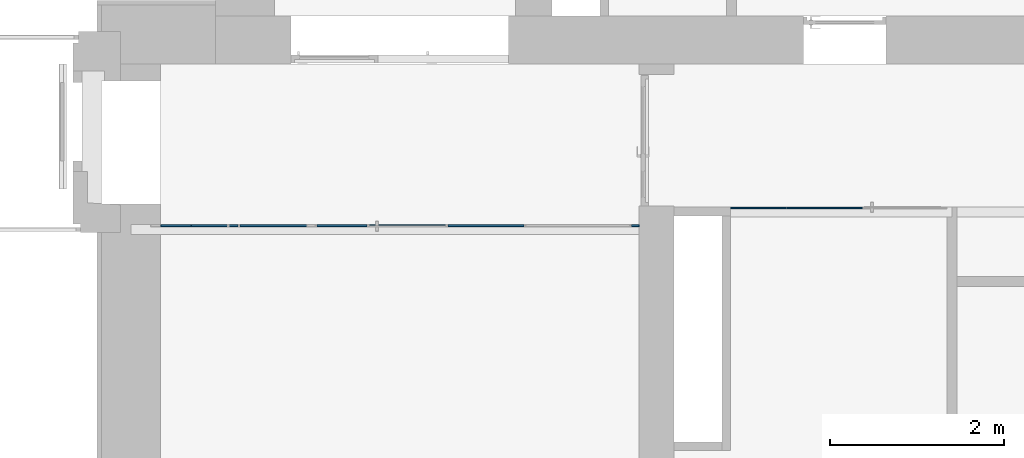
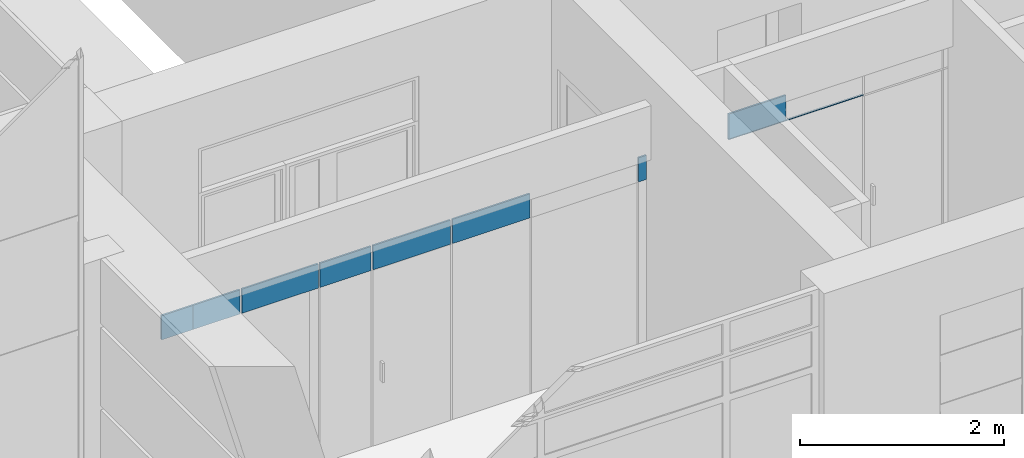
# One storey, part 29 of 66: 10 plates, 2 elements without a shape of their own.
"""IFC2X3 building model written with IfcOpenShell, lengths in millimetres."""

from ifc_helpers import new_model, entity, si_unit, converted_unit, derived_unit, direction, frame, origin, origin_2d_with_axis, place, context, subcontext, project, spatial, rectangle, extrude, source, transform, mapped, material, layer, layer_set, layer_usage, type_object, type_shapes, element, aggregate, save


model = new_model("IFC2X3")

# Units and contexts
model_context = context("Model", 3, precision=0.01, world=origin(), true_north=direction((6.12303176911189e-17, 1.0)))
body_context = subcontext(model_context, "Body", "Model", "MODEL_VIEW")
ifc_project = project(units=[si_unit("LENGTHUNIT", "METRE", prefix="MILLI"), si_unit("AREAUNIT", "SQUARE_METRE"), si_unit("VOLUMEUNIT", "CUBIC_METRE"), converted_unit("PLANEANGLEUNIT", "DEGREE", entity("IfcRatioMeasure", 0.0174532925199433), si_unit("PLANEANGLEUNIT", "RADIAN"), dimensions=[0, 0, 0, 0, 0, 0, 0]), si_unit("MASSUNIT", "GRAM", prefix="KILO"), derived_unit("MASSDENSITYUNIT", [(si_unit("MASSUNIT", "GRAM", prefix="KILO"), 1), (si_unit("LENGTHUNIT", "METRE"), -3)]), si_unit("TIMEUNIT", "SECOND"), si_unit("FREQUENCYUNIT", "HERTZ"), si_unit("THERMODYNAMICTEMPERATUREUNIT", "DEGREE_CELSIUS"), derived_unit("THERMALTRANSMITTANCEUNIT", [(si_unit("MASSUNIT", "GRAM", prefix="KILO"), 1), (si_unit("THERMODYNAMICTEMPERATUREUNIT", "KELVIN"), -1), (si_unit("TIMEUNIT", "SECOND"), -3)]), derived_unit("VOLUMETRICFLOWRATEUNIT", [(si_unit("LENGTHUNIT", "METRE"), 3), (si_unit("TIMEUNIT", "SECOND"), -1)]), si_unit("ELECTRICCURRENTUNIT", "AMPERE"), si_unit("ELECTRICVOLTAGEUNIT", "VOLT"), si_unit("POWERUNIT", "WATT"), si_unit("FORCEUNIT", "NEWTON", prefix="KILO"), si_unit("ILLUMINANCEUNIT", "LUX"), si_unit("LUMINOUSFLUXUNIT", "LUMEN"), si_unit("LUMINOUSINTENSITYUNIT", "CANDELA"), derived_unit("USERDEFINED", [(si_unit("MASSUNIT", "GRAM", prefix="KILO"), -1), (si_unit("LENGTHUNIT", "METRE"), -2), (si_unit("TIMEUNIT", "SECOND"), 3), (si_unit("LUMINOUSFLUXUNIT", "LUMEN"), 1)]), derived_unit("LINEARVELOCITYUNIT", [(si_unit("LENGTHUNIT", "METRE"), 1), (si_unit("TIMEUNIT", "SECOND"), -1)]), si_unit("PRESSUREUNIT", "PASCAL"), derived_unit("USERDEFINED", [(si_unit("LENGTHUNIT", "METRE"), -2), (si_unit("MASSUNIT", "GRAM", prefix="KILO"), 1), (si_unit("TIMEUNIT", "SECOND"), -2)])], contexts=[model_context])

# Site, building, storey
site_placement = place(None, frame((-151.875543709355, 2715.0, 0.0)))
site = spatial("IfcSite", under=ifc_project, at=site_placement, Name="Surface", CompositionType="ELEMENT")
building_placement = place(site_placement, origin())
building = spatial("IfcBuilding", under=site, at=building_placement, CompositionType="ELEMENT")
storey_placement = place(building_placement, frame((0.0, 0.0, 3350.0)))
storey = spatial("IfcBuildingStorey", under=building, at=storey_placement, Name="2 korrus", CompositionType="ELEMENT", Elevation=3350.00000000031)

# Curtain wall, plates
curtain_wall_type_1 = type_object("IfcCurtainWallType", Name="Curtain Wall:Klaassein KLS-07", PredefinedType="NOTDEFINED")
curtain_wall_1_placement = place(storey_placement, frame((0.0, 0.0, -3350.0)))
curtain_wall_1 = element("IfcCurtainWall", 1, at=curtain_wall_1_placement, inside=storey, type_object=curtain_wall_type_1, Name="Curtain Wall:Klaassein KLS-07", ObjectType="Curtain Wall:Klaassein KLS-07")
ifc_material = material(Name="<Unnamed>")
ifc_layer = layer(ifc_material, 20.0)
ifc_layer_set = layer_set([ifc_layer], Name="Curtain Wall:Klaassein KLS-01")
ifc_layer_usage_1 = layer_usage(ifc_layer_set, "AXIS3", "POSITIVE", 0.0)
plate_type_1 = type_object("IfcPlateType", Name="Glazed", PredefinedType="CURTAIN_PANEL", material=ifc_layer_set)
shared_shape_1 = source(origin(), body_context, "Body", "SweptSolid", [
    extrude(rectangle(XDim=20.0, YDim=354.999999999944, at=origin_2d_with_axis()), frame((0.0, 0.0, 0.0), z_axis=(0.0, 0.0, 1.0), x_axis=(0.0, 1.0, 0.0)), (0.0, 0.0, 1.0), 290.000000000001),
])
type_shapes(plate_type_1, [shared_shape_1])
plate_1_placement = place(curtain_wall_1_placement, frame((639.993529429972, 4150.48849455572, 5460.0)))
plate_1 = element("IfcPlate", 2, at=plate_1_placement, type_object=plate_type_1, material=ifc_layer_usage_1, Name="System Panel:Glazed", ObjectType="Glazed", context=body_context, shape_type="MappedRepresentation", body=[
    mapped(shared_shape_1, transform((0.0, 0.0, 0.0), scale=1.0)),
])
ifc_layer_usage_2 = layer_usage(ifc_layer_set, "AXIS3", "POSITIVE", 0.0)
plate_type_2 = type_object("IfcPlateType", Name="Glazed", PredefinedType="CURTAIN_PANEL", material=ifc_layer_set)
shared_shape_2 = source(origin(), body_context, "Body", "SweptSolid", [
    extrude(rectangle(XDim=20.0, YDim=535.000000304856, at=origin_2d_with_axis()), frame((0.0, 0.0, 0.0), z_axis=(0.0, 0.0, 1.0), x_axis=(0.0, 1.0, 0.0)), (0.0, 0.0, 1.0), 290.000000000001),
])
type_shapes(plate_type_2, [shared_shape_2])
plate_2_placement = place(curtain_wall_1_placement, frame((1084.99352958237, 4150.48849455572, 5460.0)))
plate_2 = element("IfcPlate", 3, at=plate_2_placement, type_object=plate_type_2, material=ifc_layer_usage_2, Name="System Panel:Glazed", ObjectType="Glazed", context=body_context, shape_type="MappedRepresentation", body=[
    mapped(shared_shape_2, transform((0.0, 0.0, 0.0), scale=1.0)),
])
ifc_layer_usage_3 = layer_usage(ifc_layer_set, "AXIS3", "POSITIVE", 0.0)
plate_type_3 = type_object("IfcPlateType", Name="Glazed", PredefinedType="CURTAIN_PANEL", material=ifc_layer_set)
shared_shape_3 = source(origin(), body_context, "Body", "SweptSolid", [
    extrude(rectangle(XDim=20.0, YDim=867.382016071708, at=origin_2d_with_axis()), frame((0.0, 0.0, 0.0), z_axis=(0.0, 0.0, 1.0), x_axis=(0.0, 1.0, 0.0)), (0.0, 0.0, 1.0), 290.000000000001),
])
type_shapes(plate_type_3, [shared_shape_3])
plate_3_placement = place(curtain_wall_1_placement, frame((1806.18453777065, 4150.48849455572, 5460.0)))
plate_3 = element("IfcPlate", 4, at=plate_3_placement, type_object=plate_type_3, material=ifc_layer_usage_3, Name="System Panel:Glazed", ObjectType="Glazed", context=body_context, shape_type="MappedRepresentation", body=[
    mapped(shared_shape_3, transform((0.0, 0.0, 0.0), scale=1.0)),
])
ifc_layer_usage_4 = layer_usage(ifc_layer_set, "AXIS3", "POSITIVE", 0.0)
plate_type_4 = type_object("IfcPlateType", Name="Glazed", PredefinedType="CURTAIN_PANEL", material=ifc_layer_set)
shared_shape_4 = source(origin(), body_context, "Body", "SweptSolid", [
    extrude(rectangle(XDim=20.0, YDim=580.0, at=origin_2d_with_axis()), frame((0.0, 0.0, 0.0), z_axis=(0.0, 0.0, 1.0), x_axis=(0.0, 1.0, 0.0)), (0.0, 0.0, 1.0), 290.000000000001),
])
type_shapes(plate_type_4, [shared_shape_4])
plate_4_placement = place(curtain_wall_1_placement, frame((2549.87554580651, 4150.48849455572, 5460.0)))
plate_4 = element("IfcPlate", 5, at=plate_4_placement, type_object=plate_type_4, material=ifc_layer_usage_4, Name="System Panel:Glazed", ObjectType="Glazed", context=body_context, shape_type="MappedRepresentation", body=[
    mapped(shared_shape_4, transform((0.0, 0.0, 0.0), scale=1.0)),
])
ifc_layer_usage_5 = layer_usage(ifc_layer_set, "AXIS3", "POSITIVE", 0.0)
plate_type_5 = type_object("IfcPlateType", Name="Glazed", PredefinedType="CURTAIN_PANEL", material=ifc_layer_set)
shared_shape_5 = source(origin(), body_context, "Body", "SweptSolid", [
    extrude(rectangle(XDim=20.0, YDim=880.000000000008, at=origin_2d_with_axis()), frame((0.0, 0.0, 0.0), z_axis=(0.0, 0.0, 1.0), x_axis=(0.0, 1.0, 0.0)), (0.0, 0.0, 1.0), 290.0),
])
type_shapes(plate_type_5, [shared_shape_5])
plate_5_placement = place(curtain_wall_1_placement, frame((3299.87554580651, 4150.48849455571, 5460.0)))
plate_5 = element("IfcPlate", 6, at=plate_5_placement, type_object=plate_type_5, material=ifc_layer_usage_5, Name="System Panel:Glazed", ObjectType="Glazed", context=body_context, shape_type="MappedRepresentation", body=[
    mapped(shared_shape_5, transform((0.0, 0.0, 0.0), scale=1.0)),
])
ifc_layer_usage_6 = layer_usage(ifc_layer_set, "AXIS3", "POSITIVE", 0.0)
plate_6_placement = place(curtain_wall_1_placement, frame((4199.87554580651, 4150.48849455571, 5460.0)))
plate_6 = element("IfcPlate", 7, at=plate_6_placement, type_object=plate_type_5, material=ifc_layer_usage_6, Name="System Panel:Glazed", ObjectType="Glazed", context=body_context, shape_type="MappedRepresentation", body=[
    mapped(shared_shape_5, transform((0.0, 0.0, 0.0), scale=1.0)),
])
ifc_layer_usage_7 = layer_usage(ifc_layer_set, "AXIS3", "POSITIVE", 0.0)
plate_type_6 = type_object("IfcPlateType", Name="Glazed", PredefinedType="CURTAIN_PANEL", material=ifc_layer_set)
shared_shape_6 = source(origin(), body_context, "Body", "SweptSolid", [
    extrude(rectangle(XDim=20.0, YDim=89.9999996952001, at=origin_2d_with_axis()), frame((0.0, 0.0, 0.0), z_axis=(0.0, 0.0, 1.0), x_axis=(0.0, 1.0, 0.0)), (0.0, 0.0, 1.0), 290.000000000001),
])
type_shapes(plate_type_6, [shared_shape_6])
plate_7_placement = place(curtain_wall_1_placement, frame((5917.4935295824, 4150.48849455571, 5460.0)))
plate_7 = element("IfcPlate", 8, at=plate_7_placement, type_object=plate_type_6, material=ifc_layer_usage_7, Name="System Panel:Glazed", ObjectType="Glazed", context=body_context, shape_type="MappedRepresentation", body=[
    mapped(shared_shape_6, transform((0.0, 0.0, 0.0), scale=1.0)),
])
aggregate(curtain_wall_1, [plate_1, plate_2, plate_3, plate_4, plate_5, plate_6, plate_7])

curtain_wall_type_2 = type_object("IfcCurtainWallType", Name="Curtain Wall:Klaassein KLS-08", PredefinedType="NOTDEFINED")
curtain_wall_2_placement = place(storey_placement, frame((0.0, 0.0, -3350.0)))
curtain_wall_2 = element("IfcCurtainWall", 9, at=curtain_wall_2_placement, inside=storey, type_object=curtain_wall_type_2, Name="Curtain Wall:Klaassein KLS-08", ObjectType="Curtain Wall:Klaassein KLS-08")
ifc_layer_usage_8 = layer_usage(ifc_layer_set, "AXIS3", "POSITIVE", 0.0)
plate_type_7 = type_object("IfcPlateType", Name="Glazed", PredefinedType="CURTAIN_PANEL", material=ifc_layer_set)
shared_shape_7 = source(origin(), body_context, "Body", "SweptSolid", [
    extrude(rectangle(XDim=20.0, YDim=646.991078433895, at=origin_2d_with_axis()), frame((0.0, 0.0, 0.0), z_axis=(0.0, 0.0, 1.0), x_axis=(0.0, 1.0, 0.0)), (0.0, 0.0, 1.0), 9.99999999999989),
])
type_shapes(plate_type_7, [shared_shape_7])
plate_8_placement = place(curtain_wall_2_placement, frame((7335.98906864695, 4355.04493399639, 5440.0)))
plate_8 = element("IfcPlate", 10, at=plate_8_placement, type_object=plate_type_7, material=ifc_layer_usage_8, Name="System Panel:Glazed", ObjectType="Glazed", context=body_context, shape_type="MappedRepresentation", body=[
    mapped(shared_shape_7, transform((0.0, 0.0, 0.0), scale=1.0)),
])
ifc_layer_usage_9 = layer_usage(ifc_layer_set, "AXIS3", "POSITIVE", 0.0)
plate_type_8 = type_object("IfcPlateType", Name="Glazed", PredefinedType="CURTAIN_PANEL", material=ifc_layer_set)
shared_shape_8 = source(origin(), body_context, "Body", "SweptSolid", [
    extrude(rectangle(XDim=20.0, YDim=879.080118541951, at=origin_2d_with_axis()), frame((0.0, 0.0, 0.0), z_axis=(0.0, 0.0, 1.0), x_axis=(0.0, 1.0, 0.0)), (0.0, 0.0, 1.0), 9.99999999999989),
])
type_shapes(plate_type_8, [shared_shape_8])
plate_9_placement = place(curtain_wall_2_placement, frame((8100.02466713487, 4355.04493399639, 5440.0)))
plate_9 = element("IfcPlate", 11, at=plate_9_placement, type_object=plate_type_8, material=ifc_layer_usage_9, Name="System Panel:Glazed", ObjectType="Glazed", context=body_context, shape_type="MappedRepresentation", body=[
    mapped(shared_shape_8, transform((0.0, 0.0, 0.0), scale=1.0)),
])
ifc_layer_usage_10 = layer_usage(ifc_layer_set, "AXIS3", "POSITIVE", 0.0)
plate_type_9 = type_object("IfcPlateType", Name="Glazed", PredefinedType="CURTAIN_PANEL", material=ifc_layer_set)
shared_shape_9 = source(origin(), body_context, "Body", "SweptSolid", [
    extrude(rectangle(XDim=20.0, YDim=646.991078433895, at=origin_2d_with_axis()), frame((0.0, 0.0, 0.0), z_axis=(0.0, 0.0, 1.0), x_axis=(0.0, 1.0, 0.0)), (0.0, 0.0, 1.0), 299.999999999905),
])
type_shapes(plate_type_9, [shared_shape_9])
plate_10_placement = place(curtain_wall_2_placement, frame((7335.98906864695, 4355.04493399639, 5450.0)))
plate_10 = element("IfcPlate", 12, at=plate_10_placement, type_object=plate_type_9, material=ifc_layer_usage_10, Name="System Panel:Glazed", ObjectType="Glazed", context=body_context, shape_type="MappedRepresentation", body=[
    mapped(shared_shape_9, transform((0.0, 0.0, 0.0), scale=1.0)),
])
aggregate(curtain_wall_2, [plate_8, plate_9, plate_10])

save(model, "model.ifc")
